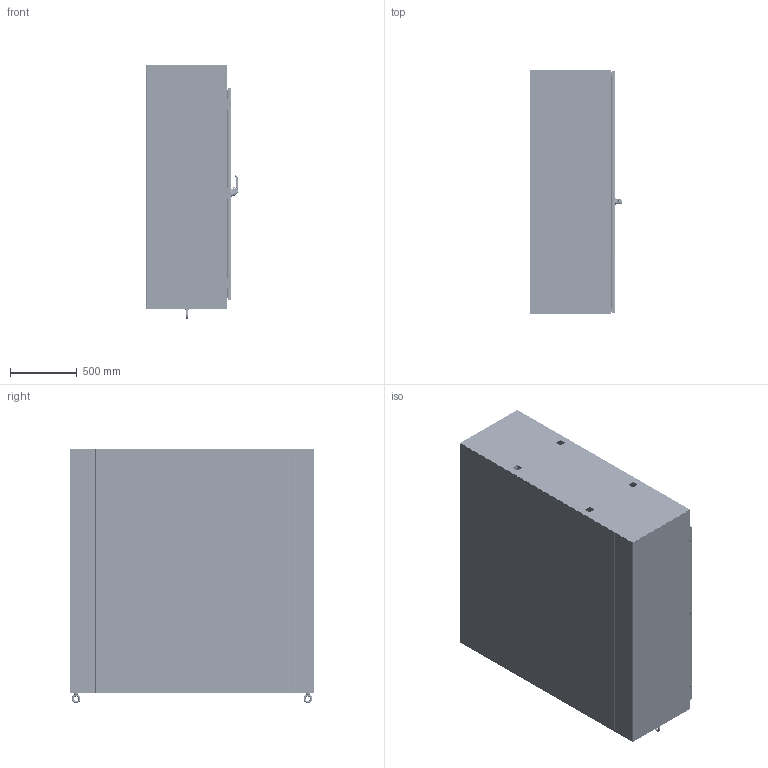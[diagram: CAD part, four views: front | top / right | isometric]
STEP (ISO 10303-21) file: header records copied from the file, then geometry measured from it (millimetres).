
FILE_DESCRIPTION((''),'2;1');
FILE_NAME('MODEL-245_ASM','2024-05-24T13:29:00',('johnh'),('SAGINAW CONTROL & ENGINEERING'),'CREO PARAMETRIC BY PTC INC, 2021284','CREO PARAMETRIC BY PTC INC, 2021284','');
FILE_SCHEMA(('AUTOMOTIVE_DESIGN { 1 0 10303 214 1 1 1 1 }'));
Length unit declared in the file: inch
Products named in the file (64): MODEL-245-L-SD; MODEL-245-TP; MODEL-245-R-SD; MODEL-245-BTM; MODEL-245-BCK; MODEL-245-MSTR; 100837; 111267; 100882; 100955_SCREW_MTG; 100955_PADLOCK_CATCH; 100955_SCREW_LARGE; 100955_INSERT_SHAFT; 100955_INSERT_PKH; 100955_GASKET; 100955_O-RING; 100955_BASE; 100955_SPRING; 100955_HANDLE; 100955_CAM_SHAFT; 100955_HANDLE_ASM; 100955_CAM_ADAPTER; 100955_EARTH_NUT; 100955_FLANGE_NUT; 100955_CAM_NUT; 100955_KEY_INSERT; 100955_SPRING_CAM; 100955_TORSION_SPRING; 100955_SCREW_INSERT; 100955_ASM; 102236; 100030; 102236_ASM; MODEL-245-ROD-UPR; 128146; 128145; 128144; 102482; MODEL-245-ROD-UPR_ASM; 128143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
Assembly tree (135 placements, depth 5):
  MODEL-245_ASM
    MODEL-245-L-SD
    MODEL-245-TP
    MODEL-245-R-SD
    MODEL-245-BTM
    MODEL-245-BCK
    MODEL-245-MASTER-DR-ASSY_ASM
      MODEL-245-MSTR
      100837  x5
      111267
      100882  x10
      100955_ASM
        100955_SCREW_MTG
        100955_PADLOCK_CATCH
        100955_SCREW_LARGE  x2
        100955_INSERT_SHAFT
        100955_INSERT_PKH
        100955_GASKET
        100955_O-RING
        100955_BASE
        100955_SPRING
        100955_HANDLE_ASM
          100955_HANDLE
          100955_CAM_SHAFT
        100955_CAM_ADAPTER
        100955_EARTH_NUT
        100955_FLANGE_NUT
        100955_CAM_NUT
        100955_KEY_INSERT
        100955_SPRING_CAM
        100955_TORSION_SPRING
        100955_SCREW_INSERT
      102236_ASM
        102236
        100030  x2
      MODEL-245-ROD-UPR_ASM
        MODEL-245-ROD-UPR
        128146
        128145
        128144
        102482  x2
      128143  x2
      112504  x2
      MODEL-245-ROD-LWR_ASM
        MODEL-245-ROD-LWR
        128146
        128145
        128144
        102482  x2
      MODEL-245-PR-GSKT-M
      128257_ASM  x3
        128257
      126393  x3
      102483  x3
      101369_ASM  x3
        101369
        101369-STUD
      101221  x3
    MODEL-245-SLAVE-DR-ASSY_ASM
      MODEL-245-SLV
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Bounding box: 687.85 x 1828.8 x 1903.6 mm (x, y, z)
Volume: 34611008.7 mm3; surface area: 25851719.3 mm2
Topology: 147 solids, 147 shells, 14683 faces, 37994 edges, 23731 vertices
Faces by surface type: plane 5206, cylinder 4029, bspline 3544, torus 891, cone 709, sphere 274, extrusion 30
Entity records: 395936 total; most frequent: CARTESIAN_POINT 153732, ORIENTED_EDGE 36160, DIRECTION 33245, PRESENTATION_STYLE_ASSIGNMENT 19683, STYLED_ITEM 19678, CURVE_STYLE 18080, EDGE_CURVE 18080, AXIS2_PLACEMENT_3D 12479
